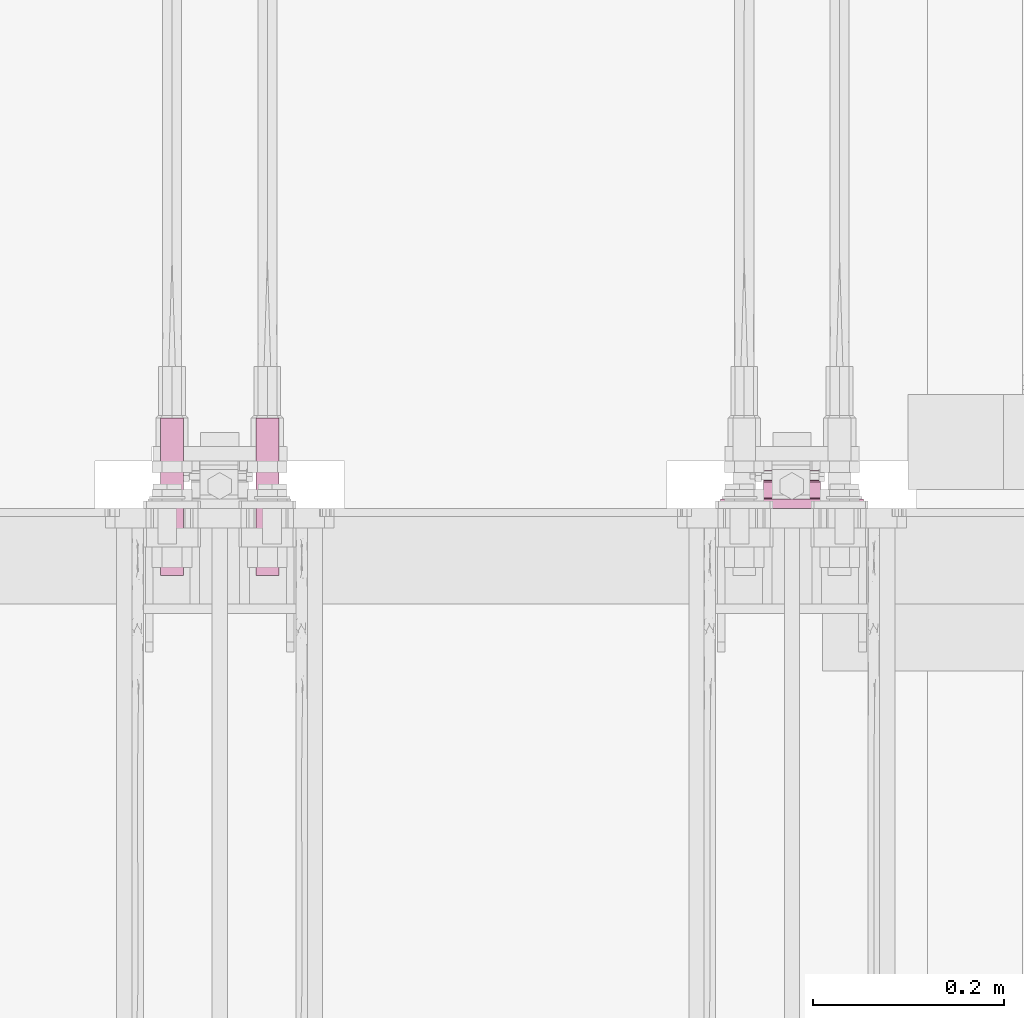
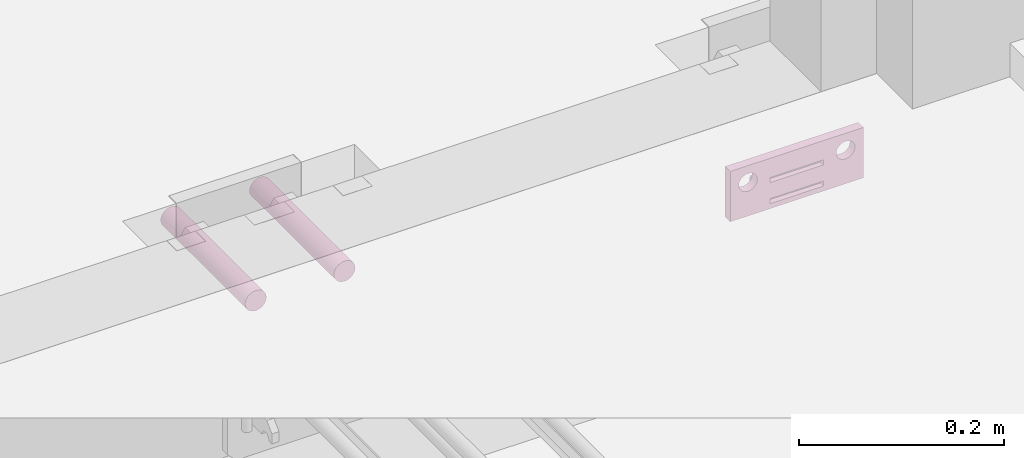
# One storey, part 12 of 17: 3 furnishings.
"""IFC2X3 building model written with IfcOpenShell, lengths in metres."""

from ifc_helpers import new_model, entity, si_unit, converted_unit, derived_unit, direction, frame, frame_2d, origin, place, context, subcontext, project, spatial, polyline, circle_curve, parameter, trimmed, segment, composite_curve, circle, outline, extrude, source, transform, mapped, material, type_object, type_shapes, element, save


model = new_model("IFC2X3")

# Units and contexts
model_context = context("Model", 3, precision=1e-05, world=origin(), true_north=direction((6.123031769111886e-17, 1.0)))
plan_context = context("Plan", 3, precision=1e-05, world=origin(), true_north=direction((6.123031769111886e-17, 1.0)))
body_context = subcontext(model_context, "Body", "Model", "MODEL_VIEW")
ifc_project = project(units=[si_unit("LENGTHUNIT", "METRE"), si_unit("AREAUNIT", "SQUARE_METRE"), converted_unit("PLANEANGLEUNIT", "DEGREE", entity("IfcPlaneAngleMeasure", 0.017453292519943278), si_unit("PLANEANGLEUNIT", "RADIAN"), dimensions=[0, 0, 0, 0, 0, 0, 0]), si_unit("VOLUMEUNIT", "CUBIC_METRE"), derived_unit("THERMALTRANSMITTANCEUNIT", [(si_unit("MASSUNIT", "GRAM", prefix="KILO"), 1), (si_unit("THERMODYNAMICTEMPERATUREUNIT", "KELVIN"), -1), (si_unit("TIMEUNIT", "SECOND"), -3)]), derived_unit("USERDEFINED", [(si_unit("MASSUNIT", "GRAM", prefix="KILO"), 1), (si_unit("THERMODYNAMICTEMPERATUREUNIT", "KELVIN"), -1), (si_unit("TIMEUNIT", "SECOND"), -2)]), derived_unit("THERMALRESISTANCEUNIT", [(si_unit("MASSUNIT", "GRAM", prefix="KILO"), -1), (si_unit("TIMEUNIT", "SECOND"), 3), (si_unit("THERMODYNAMICTEMPERATUREUNIT", "KELVIN"), 1)]), si_unit("PRESSUREUNIT", "PASCAL"), derived_unit("MASSDENSITYUNIT", [(si_unit("MASSUNIT", "GRAM", prefix="KILO"), 1), (si_unit("LENGTHUNIT", "METRE"), -3)]), derived_unit("VAPORPERMEABILITYUNIT", [(si_unit("LENGTHUNIT", "METRE"), -1), (si_unit("TIMEUNIT", "SECOND"), 1)]), derived_unit("USERDEFINED", [(si_unit("MASSUNIT", "GRAM", prefix="KILO"), 1), (si_unit("TIMEUNIT", "SECOND"), -3), (si_unit("LENGTHUNIT", "METRE"), 3), (si_unit("ELECTRICCURRENTUNIT", "AMPERE"), -2)])], contexts=[model_context, plan_context])

# Site, building, storey
site_placement = place(None, origin())
site = spatial("IfcSite", under=ifc_project, at=site_placement, Name="Default", CompositionType="ELEMENT")
building_placement = place(site_placement, origin())
building = spatial("IfcBuilding", under=site, at=building_placement, CompositionType="ELEMENT")
storey_placement = place(building_placement, origin())
storey = spatial("IfcBuildingStorey", under=building, at=storey_placement, Name="L0", CompositionType="ELEMENT", Elevation=0.0)

# Furnishings
ifc_material = material(Name="REC_Acero, S 275JR (Zincado)")
furniture_type_1 = type_object("IfcFurnitureType", Name="REC_FBAIGCEQ:FBAIGCEQ", AssemblyPlace="NOTDEFINED", material=ifc_material)
shared_shape_1 = source(origin(), body_context, "Body", "SweptSolid", [
    extrude(outline(composite_curve([segment(polyline([(-0.005276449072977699, -0.016578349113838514), (0.013723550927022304, -0.016578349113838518)]), True, "CONTINUOUS"), segment(polyline([(0.01372355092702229, -0.016578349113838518), (0.013723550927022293, -0.010578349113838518)]), True, "CONTINUOUS"), segment(polyline([(0.013723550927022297, -0.010578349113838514), (0.0197235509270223, -0.010578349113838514)]), True, "CONTINUOUS"), segment(polyline([(0.0197235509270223, -0.010578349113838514), (0.0197235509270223, -0.006578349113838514)]), True, "CONTINUOUS"), segment(polyline([(0.019723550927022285, -0.00657834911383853), (0.014744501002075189, -0.005535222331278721)]), True, "CONTINUOUS"), segment(trimmed(circle_curve(frame_2d((0.014436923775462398, -0.007003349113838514), x_axis=(-1.0, 0.0)), 0.0015000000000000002), [parameter(258.1674870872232)], [parameter(288.1948723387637)], True, "PARAMETER"), True, "CONTINUOUS"), segment(trimmed(circle_curve(frame_2d((0.007723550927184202, 0.013421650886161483), x_axis=(-1.0, 0.0)), 0.02), [parameter(71.80512766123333)], [parameter(108.1948723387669)], True, "PARAMETER"), False, "CONTINUOUS"), segment(polyline([(0.0014785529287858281, -0.005578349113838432), (-0.003149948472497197, -0.004057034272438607)]), True, "CONTINUOUS"), segment(trimmed(circle_curve(frame_2d((-0.0012764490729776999, 0.001642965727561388), x_axis=(-1.0, 0.0)), 0.006000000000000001), [parameter(0.0)], [parameter(71.80512766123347)], True, "PARAMETER"), False, "CONTINUOUS"), segment(polyline([(-0.007276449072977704, 0.0016429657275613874), (-0.007276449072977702, 0.00875220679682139)]), True, "CONTINUOUS"), segment(trimmed(circle_curve(frame_2d((-0.004276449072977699, 0.008752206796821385), x_axis=(-1.0, 0.0)), 0.0030000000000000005), [parameter(290.0)], [parameter(0.0)], True, "PARAMETER"), False, "CONTINUOUS"), segment(polyline([(-0.005302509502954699, 0.011571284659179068), (-0.0015924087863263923, 0.012921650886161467)]), True, "CONTINUOUS"), segment(trimmed(circle_curve(frame_2d((-0.0022764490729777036, 0.014801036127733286), x_axis=(-1.0, 0.0)), 0.002), [parameter(109.99999999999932)], [parameter(180.0000000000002)], True, "PARAMETER"), True, "CONTINUOUS"), segment(polyline([(-0.00027644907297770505, 0.014801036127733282), (-0.0002764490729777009, 0.019421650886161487)]), True, "CONTINUOUS"), segment(trimmed(circle_curve(frame_2d((-0.004276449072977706, 0.019421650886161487), x_axis=(-1.0, 0.0)), 0.004), [parameter(179.9999999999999)], [parameter(269.9999999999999)], True, "PARAMETER"), True, "CONTINUOUS"), segment(polyline([(-0.004276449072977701, 0.023421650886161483), (-0.017276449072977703, 0.023421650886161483)]), True, "CONTINUOUS"), segment(polyline([(-0.017276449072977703, 0.023421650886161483), (-0.0172764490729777, -0.006578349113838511)]), True, "CONTINUOUS"), segment(polyline([(-0.017276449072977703, -0.006578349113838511), (-0.0112764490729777, -0.006578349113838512)]), True, "CONTINUOUS"), segment(polyline([(-0.011276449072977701, -0.006578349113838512), (-0.011276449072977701, -0.010578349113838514)]), True, "CONTINUOUS"), segment(polyline([(-0.011276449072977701, -0.010578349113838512), (-0.005276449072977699, -0.01057834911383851)]), True, "CONTINUOUS"), segment(polyline([(-0.005276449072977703, -0.010578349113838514), (-0.0052764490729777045, -0.016578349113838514)]), True, "CONTINUOUS")], self_intersect=False)), frame((0.0, 0.01727644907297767, 0.01657834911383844), z_axis=(1.0, 0.0, 0.0), x_axis=(0.0, 1.0, 0.0)), (0.0, 0.0, 1.0), 0.015),
    extrude(outline(composite_curve([segment(polyline([(-0.005276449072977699, -0.016578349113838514), (0.013723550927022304, -0.016578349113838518)]), True, "CONTINUOUS"), segment(polyline([(0.01372355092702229, -0.016578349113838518), (0.013723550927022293, -0.010578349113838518)]), True, "CONTINUOUS"), segment(polyline([(0.013723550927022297, -0.010578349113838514), (0.0197235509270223, -0.010578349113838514)]), True, "CONTINUOUS"), segment(polyline([(0.0197235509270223, -0.010578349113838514), (0.0197235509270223, -0.006578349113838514)]), True, "CONTINUOUS"), segment(polyline([(0.019723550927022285, -0.00657834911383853), (0.014744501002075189, -0.005535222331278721)]), True, "CONTINUOUS"), segment(trimmed(circle_curve(frame_2d((0.014436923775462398, -0.007003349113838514), x_axis=(-1.0, 0.0)), 0.0015000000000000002), [parameter(258.1674870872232)], [parameter(288.1948723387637)], True, "PARAMETER"), True, "CONTINUOUS"), segment(trimmed(circle_curve(frame_2d((0.007723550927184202, 0.013421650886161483), x_axis=(-1.0, 0.0)), 0.02), [parameter(71.80512766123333)], [parameter(108.1948723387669)], True, "PARAMETER"), False, "CONTINUOUS"), segment(polyline([(0.0014785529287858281, -0.005578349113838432), (-0.003149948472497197, -0.004057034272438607)]), True, "CONTINUOUS"), segment(trimmed(circle_curve(frame_2d((-0.0012764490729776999, 0.001642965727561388), x_axis=(-1.0, 0.0)), 0.006000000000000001), [parameter(0.0)], [parameter(71.80512766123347)], True, "PARAMETER"), False, "CONTINUOUS"), segment(polyline([(-0.007276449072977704, 0.0016429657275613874), (-0.007276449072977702, 0.00875220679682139)]), True, "CONTINUOUS"), segment(trimmed(circle_curve(frame_2d((-0.004276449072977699, 0.008752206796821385), x_axis=(-1.0, 0.0)), 0.0030000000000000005), [parameter(290.0)], [parameter(0.0)], True, "PARAMETER"), False, "CONTINUOUS"), segment(polyline([(-0.005302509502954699, 0.011571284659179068), (-0.0015924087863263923, 0.012921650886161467)]), True, "CONTINUOUS"), segment(trimmed(circle_curve(frame_2d((-0.0022764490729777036, 0.014801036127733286), x_axis=(-1.0, 0.0)), 0.002), [parameter(109.99999999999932)], [parameter(180.0000000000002)], True, "PARAMETER"), True, "CONTINUOUS"), segment(polyline([(-0.00027644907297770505, 0.014801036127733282), (-0.0002764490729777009, 0.019421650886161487)]), True, "CONTINUOUS"), segment(trimmed(circle_curve(frame_2d((-0.004276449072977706, 0.019421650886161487), x_axis=(-1.0, 0.0)), 0.004), [parameter(179.9999999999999)], [parameter(269.9999999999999)], True, "PARAMETER"), True, "CONTINUOUS"), segment(polyline([(-0.004276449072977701, 0.023421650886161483), (-0.017276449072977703, 0.023421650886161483)]), True, "CONTINUOUS"), segment(polyline([(-0.017276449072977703, 0.023421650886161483), (-0.0172764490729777, -0.006578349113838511)]), True, "CONTINUOUS"), segment(polyline([(-0.017276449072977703, -0.006578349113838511), (-0.0112764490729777, -0.006578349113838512)]), True, "CONTINUOUS"), segment(polyline([(-0.011276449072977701, -0.006578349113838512), (-0.011276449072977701, -0.010578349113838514)]), True, "CONTINUOUS"), segment(polyline([(-0.011276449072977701, -0.010578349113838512), (-0.005276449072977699, -0.01057834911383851)]), True, "CONTINUOUS"), segment(polyline([(-0.005276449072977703, -0.010578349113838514), (-0.0052764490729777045, -0.016578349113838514)]), True, "CONTINUOUS")], self_intersect=False)), frame((-0.030000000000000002, 0.01727644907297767, 0.01657834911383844), z_axis=(1.0, 0.0, 0.0), x_axis=(0.0, 1.0, 0.0)), (0.0, 0.0, 1.0), 0.015),
    extrude(outline(composite_curve([segment(polyline([(-0.005276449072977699, -0.016578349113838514), (0.013723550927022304, -0.016578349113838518)]), True, "CONTINUOUS"), segment(polyline([(0.01372355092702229, -0.016578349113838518), (0.013723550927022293, -0.010578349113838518)]), True, "CONTINUOUS"), segment(polyline([(0.013723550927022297, -0.010578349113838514), (0.0197235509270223, -0.010578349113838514)]), True, "CONTINUOUS"), segment(polyline([(0.0197235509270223, -0.010578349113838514), (0.0197235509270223, -0.006578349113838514)]), True, "CONTINUOUS"), segment(polyline([(0.019723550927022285, -0.00657834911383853), (0.014744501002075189, -0.005535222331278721)]), True, "CONTINUOUS"), segment(trimmed(circle_curve(frame_2d((0.014436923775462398, -0.007003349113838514), x_axis=(-1.0, 0.0)), 0.0015000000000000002), [parameter(258.1674870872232)], [parameter(288.1948723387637)], True, "PARAMETER"), True, "CONTINUOUS"), segment(trimmed(circle_curve(frame_2d((0.007723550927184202, 0.013421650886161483), x_axis=(-1.0, 0.0)), 0.02), [parameter(71.80512766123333)], [parameter(108.1948723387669)], True, "PARAMETER"), False, "CONTINUOUS"), segment(polyline([(0.0014785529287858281, -0.005578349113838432), (-0.003149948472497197, -0.004057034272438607)]), True, "CONTINUOUS"), segment(trimmed(circle_curve(frame_2d((-0.0012764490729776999, 0.001642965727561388), x_axis=(-1.0, 0.0)), 0.006000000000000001), [parameter(0.0)], [parameter(71.80512766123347)], True, "PARAMETER"), False, "CONTINUOUS"), segment(polyline([(-0.007276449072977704, 0.0016429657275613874), (-0.007276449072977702, 0.00875220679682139)]), True, "CONTINUOUS"), segment(trimmed(circle_curve(frame_2d((-0.004276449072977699, 0.008752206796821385), x_axis=(-1.0, 0.0)), 0.0030000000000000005), [parameter(290.0)], [parameter(0.0)], True, "PARAMETER"), False, "CONTINUOUS"), segment(polyline([(-0.005302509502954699, 0.011571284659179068), (-0.0015924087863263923, 0.012921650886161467)]), True, "CONTINUOUS"), segment(trimmed(circle_curve(frame_2d((-0.0022764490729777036, 0.014801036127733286), x_axis=(-1.0, 0.0)), 0.002), [parameter(109.99999999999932)], [parameter(180.0000000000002)], True, "PARAMETER"), True, "CONTINUOUS"), segment(polyline([(-0.00027644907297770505, 0.014801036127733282), (-0.0002764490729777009, 0.019421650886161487)]), True, "CONTINUOUS"), segment(trimmed(circle_curve(frame_2d((-0.004276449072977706, 0.019421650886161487), x_axis=(-1.0, 0.0)), 0.004), [parameter(179.9999999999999)], [parameter(269.9999999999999)], True, "PARAMETER"), True, "CONTINUOUS"), segment(polyline([(-0.004276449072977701, 0.023421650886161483), (-0.017276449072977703, 0.023421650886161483)]), True, "CONTINUOUS"), segment(polyline([(-0.017276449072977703, 0.023421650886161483), (-0.0172764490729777, -0.006578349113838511)]), True, "CONTINUOUS"), segment(polyline([(-0.017276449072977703, -0.006578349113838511), (-0.0112764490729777, -0.006578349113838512)]), True, "CONTINUOUS"), segment(polyline([(-0.011276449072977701, -0.006578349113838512), (-0.011276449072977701, -0.010578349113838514)]), True, "CONTINUOUS"), segment(polyline([(-0.011276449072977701, -0.010578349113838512), (-0.005276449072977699, -0.01057834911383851)]), True, "CONTINUOUS"), segment(polyline([(-0.005276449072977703, -0.010578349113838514), (-0.0052764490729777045, -0.016578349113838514)]), True, "CONTINUOUS")], self_intersect=False)), frame((0.015000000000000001, 0.01727644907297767, 0.01657834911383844), z_axis=(1.0, 0.0, 0.0), x_axis=(0.0, 1.0, 0.0)), (0.0, 0.0, 1.0), 0.015),
    extrude(outline(composite_curve([segment(polyline([(-0.005276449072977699, -0.016578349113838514), (0.013723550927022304, -0.016578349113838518)]), True, "CONTINUOUS"), segment(polyline([(0.01372355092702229, -0.016578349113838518), (0.013723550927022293, -0.010578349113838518)]), True, "CONTINUOUS"), segment(polyline([(0.013723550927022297, -0.010578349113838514), (0.0197235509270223, -0.010578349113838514)]), True, "CONTINUOUS"), segment(polyline([(0.0197235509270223, -0.010578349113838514), (0.0197235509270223, -0.006578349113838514)]), True, "CONTINUOUS"), segment(polyline([(0.019723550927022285, -0.00657834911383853), (0.014744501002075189, -0.005535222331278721)]), True, "CONTINUOUS"), segment(trimmed(circle_curve(frame_2d((0.014436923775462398, -0.007003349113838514), x_axis=(-1.0, 0.0)), 0.0015000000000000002), [parameter(258.1674870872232)], [parameter(288.1948723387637)], True, "PARAMETER"), True, "CONTINUOUS"), segment(trimmed(circle_curve(frame_2d((0.007723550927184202, 0.013421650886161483), x_axis=(-1.0, 0.0)), 0.02), [parameter(71.80512766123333)], [parameter(108.1948723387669)], True, "PARAMETER"), False, "CONTINUOUS"), segment(polyline([(0.0014785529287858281, -0.005578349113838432), (-0.003149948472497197, -0.004057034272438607)]), True, "CONTINUOUS"), segment(trimmed(circle_curve(frame_2d((-0.0012764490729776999, 0.001642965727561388), x_axis=(-1.0, 0.0)), 0.006000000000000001), [parameter(0.0)], [parameter(71.80512766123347)], True, "PARAMETER"), False, "CONTINUOUS"), segment(polyline([(-0.007276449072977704, 0.0016429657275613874), (-0.007276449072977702, 0.00875220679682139)]), True, "CONTINUOUS"), segment(trimmed(circle_curve(frame_2d((-0.004276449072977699, 0.008752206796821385), x_axis=(-1.0, 0.0)), 0.0030000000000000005), [parameter(290.0)], [parameter(0.0)], True, "PARAMETER"), False, "CONTINUOUS"), segment(polyline([(-0.005302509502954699, 0.011571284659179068), (-0.0015924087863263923, 0.012921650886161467)]), True, "CONTINUOUS"), segment(trimmed(circle_curve(frame_2d((-0.0022764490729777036, 0.014801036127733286), x_axis=(-1.0, 0.0)), 0.002), [parameter(109.99999999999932)], [parameter(180.0000000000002)], True, "PARAMETER"), True, "CONTINUOUS"), segment(polyline([(-0.00027644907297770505, 0.014801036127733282), (-0.0002764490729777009, 0.019421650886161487)]), True, "CONTINUOUS"), segment(trimmed(circle_curve(frame_2d((-0.004276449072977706, 0.019421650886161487), x_axis=(-1.0, 0.0)), 0.004), [parameter(179.9999999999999)], [parameter(269.9999999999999)], True, "PARAMETER"), True, "CONTINUOUS"), segment(polyline([(-0.004276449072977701, 0.023421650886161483), (-0.017276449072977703, 0.023421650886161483)]), True, "CONTINUOUS"), segment(polyline([(-0.017276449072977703, 0.023421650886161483), (-0.0172764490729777, -0.006578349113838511)]), True, "CONTINUOUS"), segment(polyline([(-0.017276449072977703, -0.006578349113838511), (-0.0112764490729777, -0.006578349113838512)]), True, "CONTINUOUS"), segment(polyline([(-0.011276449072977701, -0.006578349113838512), (-0.011276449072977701, -0.010578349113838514)]), True, "CONTINUOUS"), segment(polyline([(-0.011276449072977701, -0.010578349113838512), (-0.005276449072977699, -0.01057834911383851)]), True, "CONTINUOUS"), segment(polyline([(-0.005276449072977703, -0.010578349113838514), (-0.0052764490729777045, -0.016578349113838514)]), True, "CONTINUOUS")], self_intersect=False)), frame((-0.015000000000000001, 0.01727644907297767, 0.01657834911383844), z_axis=(1.0, 0.0, 0.0), x_axis=(0.0, 1.0, 0.0)), (0.0, 0.0, 1.0), 0.015),
    extrude(outline(polyline([(-0.03, -0.07500000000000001), (0.03, -0.07500000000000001), (0.03, 0.07500000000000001), (-0.03, 0.07500000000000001), (-0.03, -0.07500000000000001)]), holes=[polyline([(0.02415000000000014, -0.030149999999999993), (-0.007149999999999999, -0.030149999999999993), (-0.007149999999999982, 0.03015000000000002), (0.024150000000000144, 0.030150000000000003), (0.02415000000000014, -0.030149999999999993)]), composite_curve([segment(trimmed(circle_curve(frame_2d((-0.010000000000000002, 0.055), x_axis=(0.0, 1.0)), 0.0105), [parameter(179.9999999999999)], [parameter(359.99999999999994)], True, "PARAMETER"), False, "CONTINUOUS"), segment(trimmed(circle_curve(frame_2d((-0.010000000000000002, 0.055), x_axis=(0.0, 1.0)), 0.0105), [parameter(0.0)], [parameter(180.00000000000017)], True, "PARAMETER"), False, "CONTINUOUS")], self_intersect=False), composite_curve([segment(trimmed(circle_curve(frame_2d((-0.010000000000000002, -0.055), x_axis=(0.0, 1.0)), 0.0105), [parameter(179.9999999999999)], [parameter(359.99999999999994)], True, "PARAMETER"), False, "CONTINUOUS"), segment(trimmed(circle_curve(frame_2d((-0.010000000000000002, -0.055), x_axis=(0.0, 1.0)), 0.0105), [parameter(0.0)], [parameter(180.00000000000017)], True, "PARAMETER"), False, "CONTINUOUS")], self_intersect=False)]), frame((0.0, 0.029999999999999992, 0.0), z_axis=(0.0, 0.0, 1.0), x_axis=(0.0, -1.0, 0.0)), (0.0, 0.0, 1.0), 0.01),
])
type_shapes(furniture_type_1, [shared_shape_1])
furnishing_placement = place(storey_placement, frame((6.385720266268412, 14.794530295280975, -0.2000000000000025), z_axis=(0.0, 1.0, 0.0), x_axis=(-1.0, 0.0, 0.0)))
element("IfcFurnishingElement", 1, at=furnishing_placement, inside=storey, type_object=furniture_type_1, material=ifc_material, Name="REC_FBAIGCEQ:FBAIGCEQ", ObjectType="REC_FBAIGCEQ:FBAIGCEQ", context=body_context, shape_type="MappedRepresentation", body=[
    mapped(shared_shape_1, transform((0.0, 0.0, 0.0), scale=1.0)),
])
furniture_type_2 = type_object("IfcFurnitureType", Name="REC__VRM24165C88EQM:VRM24165C88EQM", AssemblyPlace="NOTDEFINED", material=ifc_material)
shared_shape_2 = source(origin(), body_context, "Body", "SweptSolid", [
    extrude(circle(Radius=0.012000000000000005, at=frame_2d((0.0, -1.9386534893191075e-17), x_axis=(1.0, 0.0))), origin(), (0.0, 0.0, 1.0), 0.165),
])
type_shapes(furniture_type_2, [shared_shape_2])
for number, where, z_axis, x_axis in (
    (2, (5.735680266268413, 14.889530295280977, -0.050000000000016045), (0.0, -1.0, 0.0), (1.0, 0.0, 0.0)),
    (3, (5.835680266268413, 14.889530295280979, -0.0500000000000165), (0.0, -1.0, 0.0), (1.0, 0.0, 0.0)),
):
    element("IfcFurnishingElement", number, at=place(storey_placement, frame(where, z_axis=z_axis, x_axis=x_axis)), inside=storey, type_object=furniture_type_2, material=ifc_material, Name="REC__VRM24165C88EQM:VRM24165C88EQM", ObjectType="REC__VRM24165C88EQM:VRM24165C88EQM", context=body_context, shape_type="MappedRepresentation", body=[
        mapped(shared_shape_2, transform((0.0, 0.0, 0.0), scale=1.0)),
    ])

save(model, "model.ifc")
